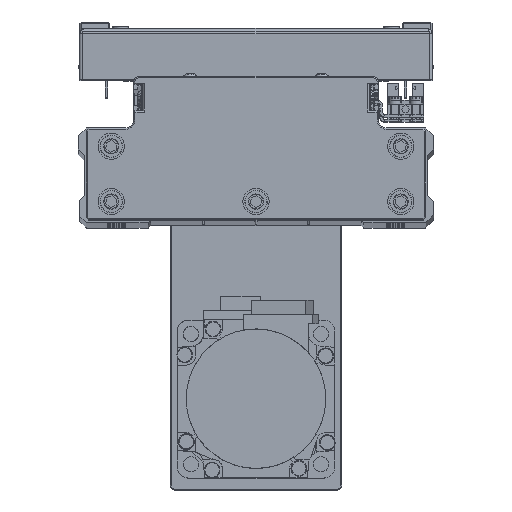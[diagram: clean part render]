
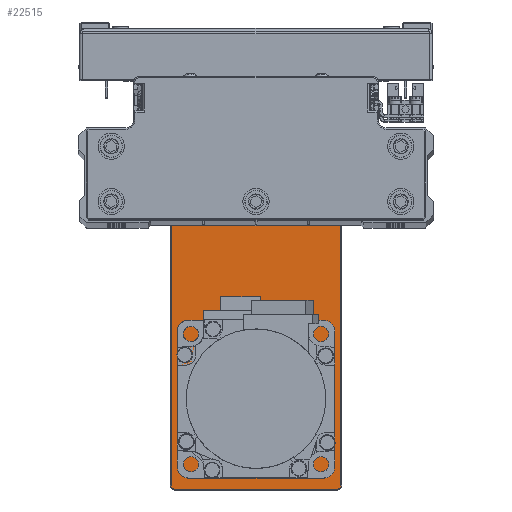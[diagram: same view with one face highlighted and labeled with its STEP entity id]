
A CAD part, top view. The second image highlights one B-rep face of the part: STEP entity #22515.
In plain terms, the highlighted planar face has unit normal (0, 0, 1) as drawn and (0, 1, 0) by its records, which use the part's own axes.
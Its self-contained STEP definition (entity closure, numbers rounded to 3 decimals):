
#257 = ORIENTED_EDGE ( 'NONE', *, *, #28792, .T. ) ;
#441 = VERTEX_POINT ( 'NONE', #26824 ) ;
#915 = CARTESIAN_POINT ( 'NONE',  ( 0., 6., -32.2 ) ) ;
#954 = DIRECTION ( 'NONE',  ( 0., 0., 1. ) ) ;
#1004 = CARTESIAN_POINT ( 'NONE',  ( 84.7, 6., -31. ) ) ;
#1141 = VECTOR ( 'NONE', #42593, 1000. ) ;
#1208 = DIRECTION ( 'NONE',  ( 0., 0., 1. ) ) ;
#1610 = CARTESIAN_POINT ( 'NONE',  ( -50.5, 6., 15. ) ) ;
#1630 = LINE ( 'NONE', #15460, #20620 ) ;
#1866 = AXIS2_PLACEMENT_3D ( 'NONE', #16978, #30815, #44648 ) ;
#1979 = ORIENTED_EDGE ( 'NONE', *, *, #2941, .T. ) ;
#2057 = DIRECTION ( 'NONE',  ( 0., 1., 0. ) ) ;
#2472 = ORIENTED_EDGE ( 'NONE', *, *, #36513, .T. ) ;
#2637 = VERTEX_POINT ( 'NONE', #19483 ) ;
#2736 = ORIENTED_EDGE ( 'NONE', *, *, #6201, .T. ) ;
#2752 = EDGE_CURVE ( 'NONE', #29679, #26030, #21428, .T. ) ;
#2941 = EDGE_CURVE ( 'NONE', #26030, #38779, #14900, .T. ) ;
#3208 = CIRCLE ( 'NONE', #9024, 1.2 ) ;
#3717 = AXIS2_PLACEMENT_3D ( 'NONE', #29252, #43118, #12033 ) ;
#4129 = ORIENTED_EDGE ( 'NONE', *, *, #31490, .T. ) ;
#4173 = EDGE_CURVE ( 'NONE', #29681, #23315, #37147, .T. ) ;
#4521 = ORIENTED_EDGE ( 'NONE', *, *, #15793, .F. ) ;
#4808 = EDGE_CURVE ( 'NONE', #21309, #441, #1630, .T. ) ;
#5011 = ORIENTED_EDGE ( 'NONE', *, *, #4173, .T. ) ;
#5131 = VERTEX_POINT ( 'NONE', #16507 ) ;
#5227 = DIRECTION ( 'NONE',  ( 0., 1., 0. ) ) ;
#6056 = CARTESIAN_POINT ( 'NONE',  ( 84.7, 6., 0. ) ) ;
#6201 = EDGE_CURVE ( 'NONE', #18343, #29679, #32013, .T. ) ;
#6248 = ORIENTED_EDGE ( 'NONE', *, *, #8498, .T. ) ;
#6280 = DIRECTION ( 'NONE',  ( 0., 0., 1. ) ) ;
#6382 = CIRCLE ( 'NONE', #31731, 1.525 ) ;
#6596 = AXIS2_PLACEMENT_3D ( 'NONE', #11203, #25010, #38872 ) ;
#7157 = CARTESIAN_POINT ( 'NONE',  ( 52.5, 6., 0. ) ) ;
#7889 = ORIENTED_EDGE ( 'NONE', *, *, #14430, .T. ) ;
#8388 = CARTESIAN_POINT ( 'NONE',  ( 0., 6., 0. ) ) ;
#8432 = EDGE_LOOP ( 'NONE', ( #2472, #6248 ) ) ;
#8498 = EDGE_CURVE ( 'NONE', #22884, #16972, #41864, .T. ) ;
#9024 = AXIS2_PLACEMENT_3D ( 'NONE', #14469, #28302, #42159 ) ;
#9594 = CARTESIAN_POINT ( 'NONE',  ( 52.5, 6., 0. ) ) ;
#10191 = EDGE_LOOP ( 'NONE', ( #4129, #2736, #41601, #1979, #257, #28291, #7889, #5011 ) ) ;
#10706 = CARTESIAN_POINT ( 'NONE',  ( -50.5, 6., -15. ) ) ;
#11203 = CARTESIAN_POINT ( 'NONE',  ( -50.5, 6., 0. ) ) ;
#11484 = AXIS2_PLACEMENT_3D ( 'NONE', #23498, #37373, #6280 ) ;
#11637 = CARTESIAN_POINT ( 'NONE',  ( -83.5, 6., -32.2 ) ) ;
#11779 = FACE_OUTER_BOUND ( 'NONE', #10191, .T. ) ;
#12033 = DIRECTION ( 'NONE',  ( 0., 0., -1. ) ) ;
#12081 = CIRCLE ( 'NONE', #37467, 1.2 ) ;
#12234 = CARTESIAN_POINT ( 'NONE',  ( -83.5, 6., 32.2 ) ) ;
#14061 = ORIENTED_EDGE ( 'NONE', *, *, #19863, .F. ) ;
#14073 = CARTESIAN_POINT ( 'NONE',  ( 61.051, 6., 23.492 ) ) ;
#14284 = VERTEX_POINT ( 'NONE', #10706 ) ;
#14430 = EDGE_CURVE ( 'NONE', #441, #29681, #23269, .T. ) ;
#14469 = CARTESIAN_POINT ( 'NONE',  ( -83.5, 6., 31. ) ) ;
#14762 = DIRECTION ( 'NONE',  ( -1., 0., 0. ) ) ;
#14900 = LINE ( 'NONE', #28730, #1141 ) ;
#14935 = CARTESIAN_POINT ( 'NONE',  ( 61.051, 6., 21.967 ) ) ;
#15177 = FACE_BOUND ( 'NONE', #15699, .T. ) ;
#15460 = CARTESIAN_POINT ( 'NONE',  ( 0., 6., 32.2 ) ) ;
#15699 = EDGE_LOOP ( 'NONE', ( #38610, #14061 ) ) ;
#15726 = VECTOR ( 'NONE', #19886, 1000. ) ;
#15793 = EDGE_CURVE ( 'NONE', #44699, #14284, #37157, .T. ) ;
#15887 = DIRECTION ( 'NONE',  ( 0., 0., 1. ) ) ;
#16132 = EDGE_LOOP ( 'NONE', ( #24082, #31632 ) ) ;
#16507 = CARTESIAN_POINT ( 'NONE',  ( 75.992, 6., -7.026 ) ) ;
#16730 = CIRCLE ( 'NONE', #42086, 1.525 ) ;
#16972 = VERTEX_POINT ( 'NONE', #30495 ) ;
#16978 = CARTESIAN_POINT ( 'NONE',  ( -83.5, 6., -31. ) ) ;
#17197 = EDGE_CURVE ( 'NONE', #2637, #5131, #6382, .T. ) ;
#17577 = AXIS2_PLACEMENT_3D ( 'NONE', #33147, #2057, #15887 ) ;
#18200 = CARTESIAN_POINT ( 'NONE',  ( 75.992, 6., -8.551 ) ) ;
#18343 = VERTEX_POINT ( 'NONE', #35919 ) ;
#18441 = CARTESIAN_POINT ( 'NONE',  ( 61.051, 6., 23.492 ) ) ;
#19057 = DIRECTION ( 'NONE',  ( 0., 0., -1. ) ) ;
#19483 = CARTESIAN_POINT ( 'NONE',  ( 75.992, 6., -10.076 ) ) ;
#19863 = EDGE_CURVE ( 'NONE', #31867, #31661, #42223, .T. ) ;
#19886 = DIRECTION ( 'NONE',  ( 0., 0., -1. ) ) ;
#20620 = VECTOR ( 'NONE', #29300, 1000. ) ;
#20976 = DIRECTION ( 'NONE',  ( 0., -1., 0. ) ) ;
#21309 = VERTEX_POINT ( 'NONE', #12234 ) ;
#21428 = CIRCLE ( 'NONE', #1866, 1.2 ) ;
#22202 = DIRECTION ( 'NONE',  ( 0., -1., 0. ) ) ;
#22266 = AXIS2_PLACEMENT_3D ( 'NONE', #7157, #20976, #34829 ) ;
#22515 = ADVANCED_FACE ( 'NONE', ( #15177, #29005, #42863, #11779, #25585 ), #39452, .F. ) ;
#22647 = AXIS2_PLACEMENT_3D ( 'NONE', #18441, #32299, #1208 ) ;
#22884 = VERTEX_POINT ( 'NONE', #24876 ) ;
#23112 = EDGE_CURVE ( 'NONE', #5131, #2637, #31045, .T. ) ;
#23269 = CIRCLE ( 'NONE', #3717, 1.2 ) ;
#23315 = VERTEX_POINT ( 'NONE', #1004 ) ;
#23402 = DIRECTION ( 'NONE',  ( 0., -1., 0. ) ) ;
#23498 = CARTESIAN_POINT ( 'NONE',  ( 75.992, 6., -8.551 ) ) ;
#23803 = CARTESIAN_POINT ( 'NONE',  ( 61.051, 6., 25.017 ) ) ;
#24082 = ORIENTED_EDGE ( 'NONE', *, *, #23112, .F. ) ;
#24596 = AXIS2_PLACEMENT_3D ( 'NONE', #9594, #23402, #37273 ) ;
#24876 = CARTESIAN_POINT ( 'NONE',  ( 52.5, 6., -10.3 ) ) ;
#25010 = DIRECTION ( 'NONE',  ( 0., 1., 0. ) ) ;
#25432 = CARTESIAN_POINT ( 'NONE',  ( 84.7, 6., 31. ) ) ;
#25585 = FACE_BOUND ( 'NONE', #30264, .T. ) ;
#25587 = EDGE_CURVE ( 'NONE', #31661, #31867, #16730, .T. ) ;
#26030 = VERTEX_POINT ( 'NONE', #27857 ) ;
#26128 = CIRCLE ( 'NONE', #6596, 15. ) ;
#26824 = CARTESIAN_POINT ( 'NONE',  ( 83.5, 6., 32.2 ) ) ;
#27857 = CARTESIAN_POINT ( 'NONE',  ( -84.7, 6., -31. ) ) ;
#27910 = DIRECTION ( 'NONE',  ( 0., 1., 0. ) ) ;
#28291 = ORIENTED_EDGE ( 'NONE', *, *, #4808, .T. ) ;
#28302 = DIRECTION ( 'NONE',  ( 0., 1., 0. ) ) ;
#28730 = CARTESIAN_POINT ( 'NONE',  ( -84.7, 6., 0. ) ) ;
#28792 = EDGE_CURVE ( 'NONE', #38779, #21309, #3208, .T. ) ;
#29005 = FACE_BOUND ( 'NONE', #16132, .T. ) ;
#29252 = CARTESIAN_POINT ( 'NONE',  ( 83.5, 6., 31. ) ) ;
#29300 = DIRECTION ( 'NONE',  ( 1., 0., 0. ) ) ;
#29679 = VERTEX_POINT ( 'NONE', #11637 ) ;
#29681 = VERTEX_POINT ( 'NONE', #25432 ) ;
#30264 = EDGE_LOOP ( 'NONE', ( #4521, #42246 ) ) ;
#30495 = CARTESIAN_POINT ( 'NONE',  ( 52.5, 6., 10.3 ) ) ;
#30569 = CARTESIAN_POINT ( 'NONE',  ( -84.7, 6., 31. ) ) ;
#30815 = DIRECTION ( 'NONE',  ( 0., 1., 0. ) ) ;
#31045 = CIRCLE ( 'NONE', #11484, 1.525 ) ;
#31490 = EDGE_CURVE ( 'NONE', #23315, #18343, #12081, .T. ) ;
#31632 = ORIENTED_EDGE ( 'NONE', *, *, #17197, .F. ) ;
#31661 = VERTEX_POINT ( 'NONE', #23803 ) ;
#31731 = AXIS2_PLACEMENT_3D ( 'NONE', #18200, #32050, #954 ) ;
#31867 = VERTEX_POINT ( 'NONE', #14935 ) ;
#32013 = LINE ( 'NONE', #915, #32939 ) ;
#32050 = DIRECTION ( 'NONE',  ( 0., 1., 0. ) ) ;
#32299 = DIRECTION ( 'NONE',  ( 0., 1., 0. ) ) ;
#32939 = VECTOR ( 'NONE', #14762, 1000. ) ;
#33147 = CARTESIAN_POINT ( 'NONE',  ( -50.5, 6., 0. ) ) ;
#34829 = DIRECTION ( 'NONE',  ( 0., 0., -1. ) ) ;
#35071 = AXIS2_PLACEMENT_3D ( 'NONE', #8388, #22202, #36064 ) ;
#35919 = CARTESIAN_POINT ( 'NONE',  ( 83.5, 6., -32.2 ) ) ;
#36064 = DIRECTION ( 'NONE',  ( 0., 0., -1. ) ) ;
#36316 = CARTESIAN_POINT ( 'NONE',  ( 83.5, 6., -31. ) ) ;
#36513 = EDGE_CURVE ( 'NONE', #16972, #22884, #44188, .T. ) ;
#37147 = LINE ( 'NONE', #6056, #15726 ) ;
#37157 = CIRCLE ( 'NONE', #17577, 15. ) ;
#37273 = DIRECTION ( 'NONE',  ( 0., 0., -1. ) ) ;
#37373 = DIRECTION ( 'NONE',  ( 0., 1., 0. ) ) ;
#37467 = AXIS2_PLACEMENT_3D ( 'NONE', #36316, #5227, #19057 ) ;
#37530 = EDGE_CURVE ( 'NONE', #14284, #44699, #26128, .T. ) ;
#38610 = ORIENTED_EDGE ( 'NONE', *, *, #25587, .F. ) ;
#38779 = VERTEX_POINT ( 'NONE', #30569 ) ;
#38872 = DIRECTION ( 'NONE',  ( 0., 0., 1. ) ) ;
#39452 = PLANE ( 'NONE',  #35071 ) ;
#41601 = ORIENTED_EDGE ( 'NONE', *, *, #2752, .T. ) ;
#41762 = DIRECTION ( 'NONE',  ( 0., 0., 1. ) ) ;
#41864 = CIRCLE ( 'NONE', #22266, 10.3 ) ;
#42086 = AXIS2_PLACEMENT_3D ( 'NONE', #14073, #27910, #41762 ) ;
#42159 = DIRECTION ( 'NONE',  ( 0., 0., -1. ) ) ;
#42223 = CIRCLE ( 'NONE', #22647, 1.525 ) ;
#42246 = ORIENTED_EDGE ( 'NONE', *, *, #37530, .F. ) ;
#42593 = DIRECTION ( 'NONE',  ( 0., 0., 1. ) ) ;
#42863 = FACE_BOUND ( 'NONE', #8432, .T. ) ;
#43118 = DIRECTION ( 'NONE',  ( 0., 1., 0. ) ) ;
#44188 = CIRCLE ( 'NONE', #24596, 10.3 ) ;
#44648 = DIRECTION ( 'NONE',  ( 0., 0., -1. ) ) ;
#44699 = VERTEX_POINT ( 'NONE', #1610 ) ;
